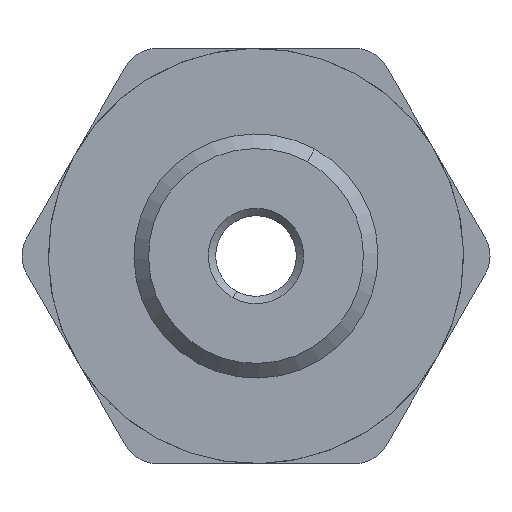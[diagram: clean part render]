
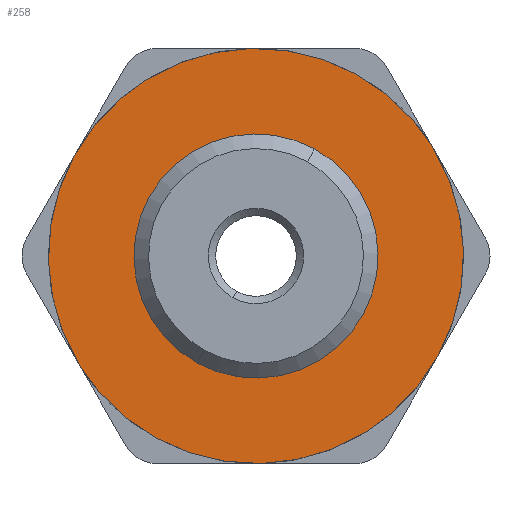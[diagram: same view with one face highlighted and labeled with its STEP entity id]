
A CAD part, front view. The second image highlights one B-rep face of the part: STEP entity #258.
In plain terms, the highlighted planar face has unit normal (0, -1, 0).
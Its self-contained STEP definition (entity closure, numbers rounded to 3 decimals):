
#162=AXIS2_PLACEMENT_3D('Circle Axis2P3D',#160,#161,$) ;
#188=AXIS2_PLACEMENT_3D('Circle Axis2P3D',#186,#187,$) ;
#234=AXIS2_PLACEMENT_3D('Plane Axis2P3D',#231,#232,#233) ;
#238=AXIS2_PLACEMENT_3D('Circle Axis2P3D',#236,#237,$) ;
#247=AXIS2_PLACEMENT_3D('Circle Axis2P3D',#245,#246,$) ;
#157=CARTESIAN_POINT('Vertex',(-1.918,-18.5,-3.51)) ;
#160=CARTESIAN_POINT('Axis2P3D Location',(0.,-18.5,0.)) ;
#164=CARTESIAN_POINT('Vertex',(1.918,-18.5,3.51)) ;
#186=CARTESIAN_POINT('Axis2P3D Location',(0.,-18.5,0.)) ;
#231=CARTESIAN_POINT('Axis2P3D Location',(0.,-18.5,8.5)) ;
#236=CARTESIAN_POINT('Axis2P3D Location',(0.,-18.5,0.)) ;
#240=CARTESIAN_POINT('Vertex',(4.075,-18.5,7.459)) ;
#242=CARTESIAN_POINT('Vertex',(-4.075,-18.5,-7.459)) ;
#245=CARTESIAN_POINT('Axis2P3D Location',(0.,-18.5,0.)) ;
#161=DIRECTION('Axis2P3D Direction',(0.,1.,0.)) ;
#187=DIRECTION('Axis2P3D Direction',(0.,1.,0.)) ;
#232=DIRECTION('Axis2P3D Direction',(-0.,1.,0.)) ;
#233=DIRECTION('Axis2P3D XDirection',(1.,0.,0.)) ;
#237=DIRECTION('Axis2P3D Direction',(-0.,1.,0.)) ;
#246=DIRECTION('Axis2P3D Direction',(-0.,1.,0.)) ;
#251=ORIENTED_EDGE('',*,*,#244,.F.) ;
#252=ORIENTED_EDGE('',*,*,#249,.F.) ;
#255=ORIENTED_EDGE('',*,*,#190,.T.) ;
#256=ORIENTED_EDGE('',*,*,#166,.T.) ;
#257=FACE_BOUND('',#254,.T.) ;
#258=ADVANCED_FACE('PartBody',(#253,#257),#235,.F.) ;
#163=CIRCLE('generated circle',#162,4.) ;
#189=CIRCLE('generated circle',#188,4.) ;
#239=CIRCLE('generated circle',#238,8.5) ;
#248=CIRCLE('generated circle',#247,8.5) ;
#166=EDGE_CURVE('',#165,#158,#163,.T.) ;
#190=EDGE_CURVE('',#158,#165,#189,.T.) ;
#244=EDGE_CURVE('',#241,#243,#239,.T.) ;
#249=EDGE_CURVE('',#243,#241,#248,.T.) ;
#250=EDGE_LOOP('',(#251,#252)) ;
#254=EDGE_LOOP('',(#255,#256)) ;
#253=FACE_OUTER_BOUND('',#250,.T.) ;
#235=PLANE('Plane',#234) ;
#158=VERTEX_POINT('',#157) ;
#165=VERTEX_POINT('',#164) ;
#241=VERTEX_POINT('',#240) ;
#243=VERTEX_POINT('',#242) ;
